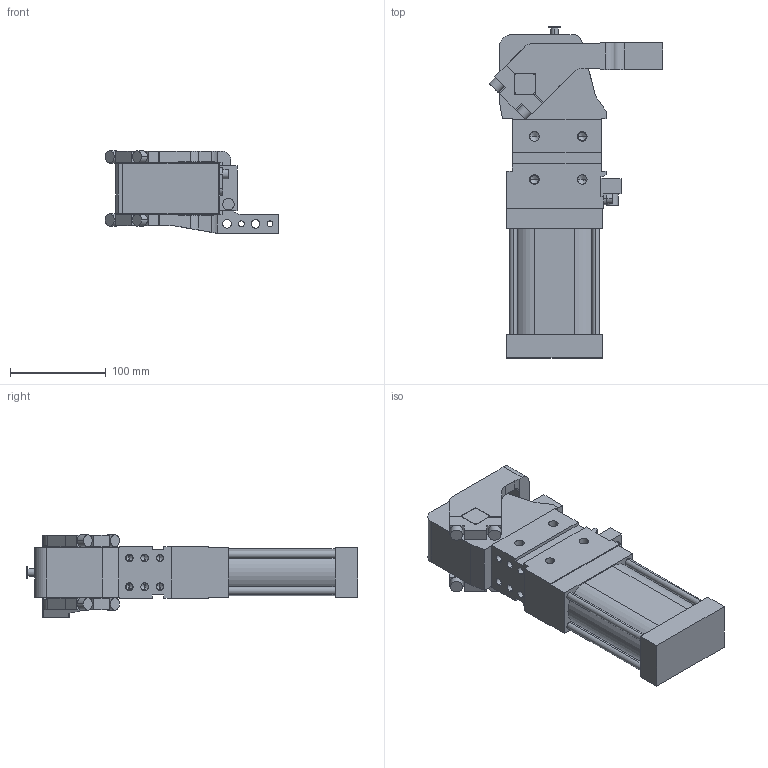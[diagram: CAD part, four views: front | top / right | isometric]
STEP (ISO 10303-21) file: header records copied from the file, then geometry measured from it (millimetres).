
FILE_DESCRIPTION (( 'STEP AP214' ), '1' );
FILE_NAME ('cpl63v1dsi1g_16.STEP', '2023-01-26T10:23:39', ( '' ), ( '' ), 'SwSTEP 2.0', 'SolidWorks 2022', '' );
FILE_SCHEMA (( 'AUTOMOTIVE_DESIGN' ));
Length unit declared in the file: millimetre
Products named in the file (4): cpl63v1dsi1g_16; meccanica_cpl_63; blocchetto_VEP_0; leva_sx_offset_15_cpl63
Assembly tree (3 placements, depth 2):
  cpl63v1dsi1g_16
    meccanica_cpl_63
    blocchetto_VEP_0
    leva_sx_offset_15_cpl63
Bounding box: 181.09 x 347 x 86.5 mm (x, y, z)
Volume: 1787141.3 mm3; surface area: 189086.2 mm2
Topology: 3 solids, 3 shells, 396 faces, 1037 edges, 639 vertices
Faces by surface type: plane 198, cylinder 148, cone 50
Entity records: 13449 total; most frequent: CARTESIAN_POINT 2134, DIRECTION 2109, ORIENTED_EDGE 1982, EDGE_CURVE 991, AXIS2_PLACEMENT_3D 728, LINE 653, VECTOR 653, VERTEX_POINT 639
